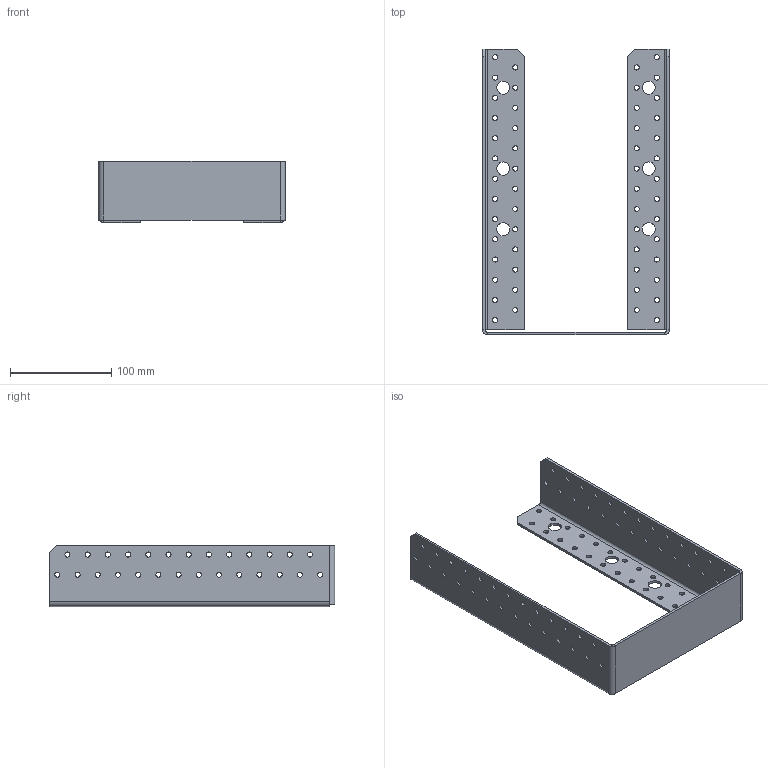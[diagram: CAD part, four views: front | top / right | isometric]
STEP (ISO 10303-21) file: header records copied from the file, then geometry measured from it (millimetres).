
FILE_DESCRIPTION (( 'STEP AP203' ), '1' );
FILE_NAME ('40524IKO.STEP', '2021-04-16T09:52:03', ( '' ), ( '' ), 'SwSTEP 2.0', 'SolidWorks 2013', '' );
FILE_SCHEMA (( 'CONFIG_CONTROL_DESIGN' ));
Length unit declared in the file: millimetre
Products named in the file (1): 40524IKO
Bounding box: 185 x 282.5 x 60.5 mm (x, y, z)
Volume: 155368.9 mm3; surface area: 133507.8 mm2
Topology: 1 solids, 1 shells, 272 faces, 780 edges, 510 vertices
Faces by surface type: cylinder 236, plane 36
Entity records: 9671 total; most frequent: DIRECTION 1800, CARTESIAN_POINT 1563, ORIENTED_EDGE 1560, EDGE_CURVE 780, AXIS2_PLACEMENT_3D 747, VERTEX_POINT 510, EDGE_LOOP 500, CIRCLE 474
